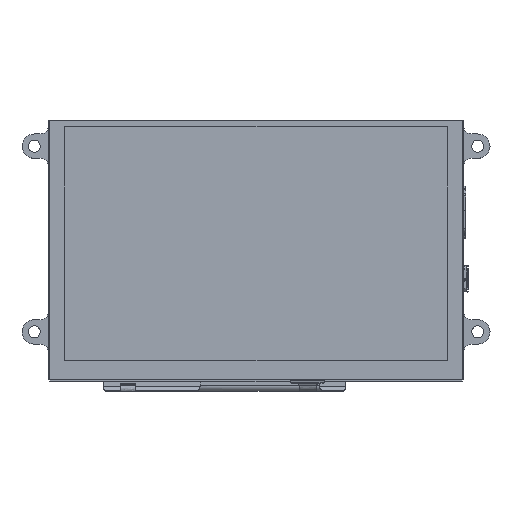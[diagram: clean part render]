
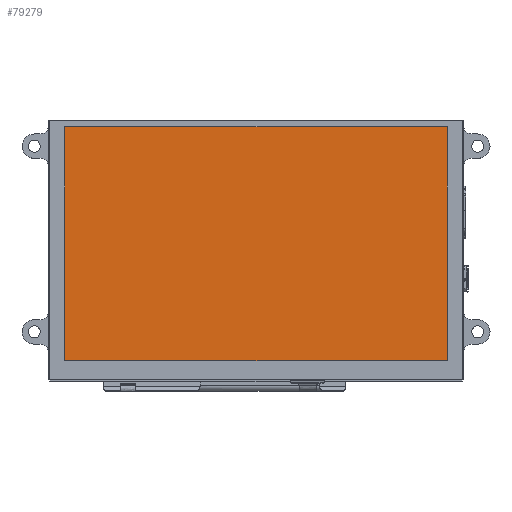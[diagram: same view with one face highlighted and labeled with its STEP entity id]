
A CAD part, top view. The second image highlights one B-rep face of the part: STEP entity #79279.
In plain terms, the highlighted planar face has unit normal (0, 0, 1).
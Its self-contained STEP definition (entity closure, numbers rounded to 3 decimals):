
#511 = EDGE_CURVE ( 'NONE', #181613, #130185, #10421, .T. ) ;
#1989 = ORIENTED_EDGE ( 'NONE', *, *, #66778, .T. ) ;
#4802 = DIRECTION ( 'NONE',  ( 0., -1., 0. ) ) ;
#6020 = VECTOR ( 'NONE', #4802, 1000. ) ;
#8110 = DIRECTION ( 'NONE',  ( 1., 0., 0. ) ) ;
#10421 = LINE ( 'NONE', #89148, #6020 ) ;
#11440 = PLANE ( 'NONE',  #100281 ) ;
#12066 = DIRECTION ( 'NONE',  ( 1., 0., 0. ) ) ;
#15899 = DIRECTION ( 'NONE',  ( 0., 1., 0. ) ) ;
#16494 = EDGE_CURVE ( 'NONE', #127154, #178178, #39823, .T. ) ;
#24050 = FACE_OUTER_BOUND ( 'NONE', #112116, .T. ) ;
#39823 = LINE ( 'NONE', #86155, #147713 ) ;
#57206 = VECTOR ( 'NONE', #146369, 1000. ) ;
#61481 = CARTESIAN_POINT ( 'NONE',  ( 4345.531, 941.579, 4.3 ) ) ;
#66778 = EDGE_CURVE ( 'NONE', #130185, #127154, #73836, .T. ) ;
#73836 = LINE ( 'NONE', #163216, #144266 ) ;
#79279 = ADVANCED_FACE ( 'NONE', ( #24050 ), #11440, .T. ) ;
#86155 = CARTESIAN_POINT ( 'NONE',  ( 4456.631, 941.579, 4.3 ) ) ;
#89148 = CARTESIAN_POINT ( 'NONE',  ( 4345.531, 941.579, 4.3 ) ) ;
#91230 = EDGE_CURVE ( 'NONE', #178178, #181613, #132086, .T. ) ;
#96443 = DIRECTION ( 'NONE',  ( 0., 0., 1. ) ) ;
#97965 = CARTESIAN_POINT ( 'NONE',  ( 4456.631, 873.679, 4.3 ) ) ;
#100281 = AXIS2_PLACEMENT_3D ( 'NONE', #180703, #96443, #12066 ) ;
#107032 = ORIENTED_EDGE ( 'NONE', *, *, #91230, .T. ) ;
#112116 = EDGE_LOOP ( 'NONE', ( #120713, #1989, #157040, #107032 ) ) ;
#120713 = ORIENTED_EDGE ( 'NONE', *, *, #511, .T. ) ;
#127154 = VERTEX_POINT ( 'NONE', #97965 ) ;
#130185 = VERTEX_POINT ( 'NONE', #161658 ) ;
#131767 = CARTESIAN_POINT ( 'NONE',  ( 4456.631, 941.579, 4.3 ) ) ;
#132086 = LINE ( 'NONE', #61481, #57206 ) ;
#144266 = VECTOR ( 'NONE', #8110, 1000. ) ;
#146369 = DIRECTION ( 'NONE',  ( -1., 0., 0. ) ) ;
#147713 = VECTOR ( 'NONE', #15899, 1000. ) ;
#152993 = CARTESIAN_POINT ( 'NONE',  ( 4345.531, 941.579, 4.3 ) ) ;
#157040 = ORIENTED_EDGE ( 'NONE', *, *, #16494, .T. ) ;
#161658 = CARTESIAN_POINT ( 'NONE',  ( 4345.531, 873.679, 4.3 ) ) ;
#163216 = CARTESIAN_POINT ( 'NONE',  ( 4345.531, 873.679, 4.3 ) ) ;
#178178 = VERTEX_POINT ( 'NONE', #131767 ) ;
#180703 = CARTESIAN_POINT ( 'NONE',  ( 0., 0., 4.3 ) ) ;
#181613 = VERTEX_POINT ( 'NONE', #152993 ) ;
